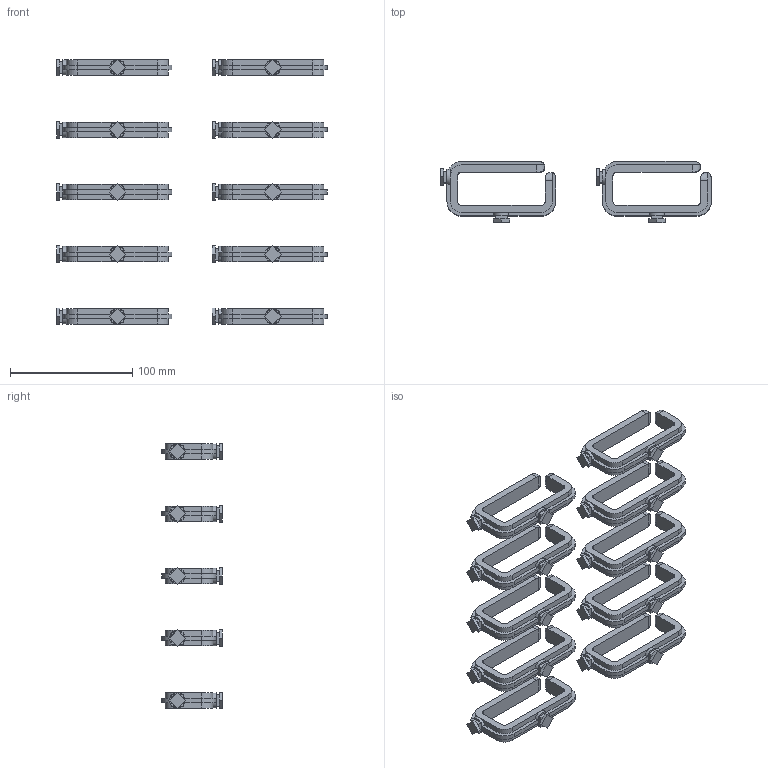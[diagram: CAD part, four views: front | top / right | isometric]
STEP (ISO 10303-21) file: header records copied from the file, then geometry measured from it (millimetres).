
FILE_DESCRIPTION(/* description */ ('KIT OF (10) 1.5"x 3.5" 1/4-TURN ''D'' RINGS'),/* implementation_level */ '2;1');
FILE_NAME(/* name */ '\\Zeus\engineering\Inventor\side GLCC projects\VitaliyL\Website\CM-25\CM-25_STP.stp',/* time_stamp */ '2017-06-01T08:57:06-04:00',/* author */ ('VitaliyL'),/* organization */ ('GLCC'),/* preprocessor_version */ 'ST-DEVELOPER v16.5',/* originating_system */ 'Autodesk Inventor 2017',/* authorisation */ '');
FILE_SCHEMA (('AUTOMOTIVE_DESIGN { 1 0 10303 214 3 1 1 }'));
Length unit declared in the file: inch
Products named in the file (2): CM25X200; VP-143
Assembly tree (10 placements, depth 2):
  CM25X200
    VP-143  x10
Bounding box: 220.98 x 49.53 x 216.67 mm (x, y, z)
Volume: 186794.8 mm3; surface area: 95183.4 mm2
Topology: 10 solids, 10 shells, 990 faces, 2570 edges, 1600 vertices
Faces by surface type: plane 780, cylinder 210
Entity records: 3165 total; most frequent: CARTESIAN_POINT 597, DIRECTION 535, ORIENTED_EDGE 514, EDGE_CURVE 257, LINE 183, VECTOR 183, AXIS2_PLACEMENT_3D 176, VERTEX_POINT 160
